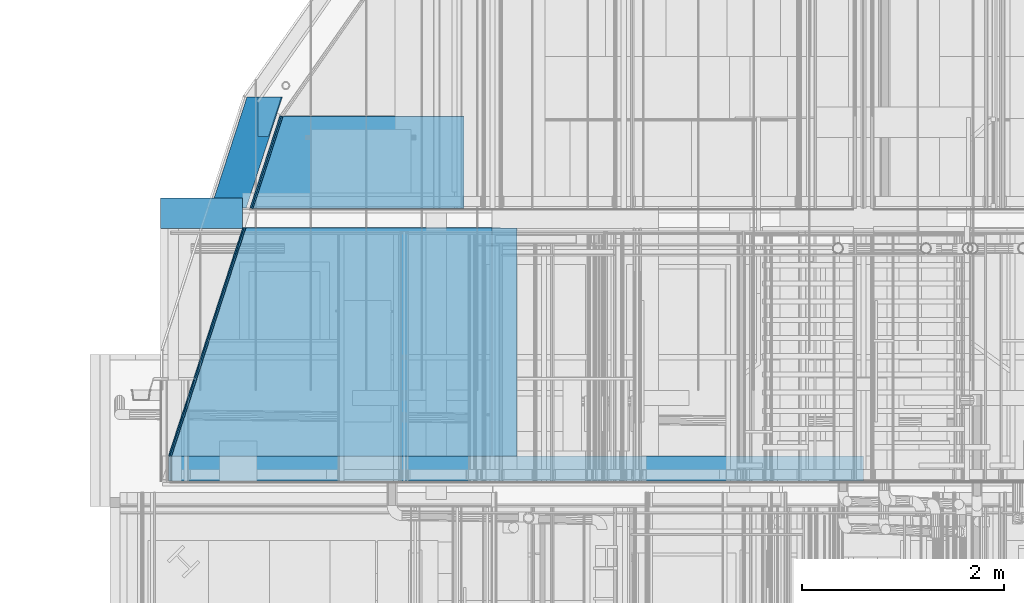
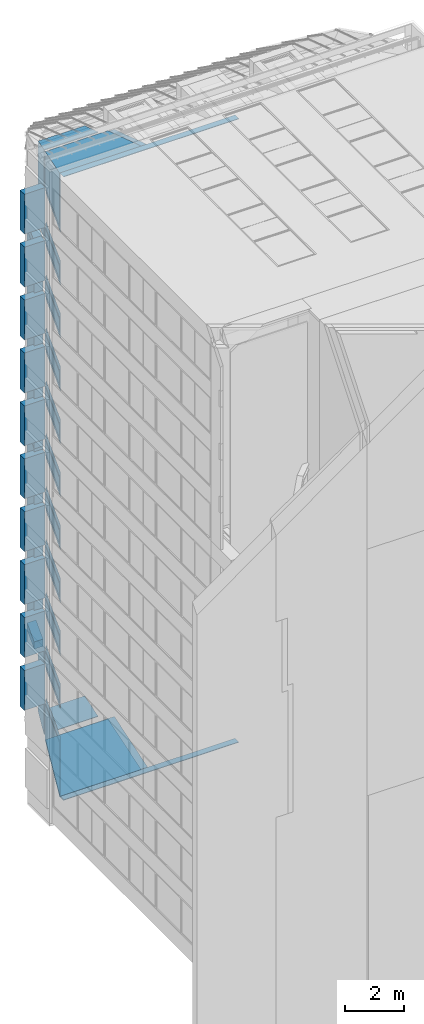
# One storey, part 22 of 583: 51 walls.
"""IFC2X3 building model written with IfcOpenShell, lengths in metres."""

import ifcopenshell
import ifcopenshell.guid

model = None  # the IFC model being written
_history = None  # IfcOwnerHistory: only IFC2X3 demands one
_inside = {}  # id of a spatial element -> (the spatial element, [elements in it])
_under = {}  # id of a project, library or spatial element -> (it, [spatial elements below it])
_declared = {}  # id of a project -> (the project, [libraries it declares])
_typed = {}  # id of a type object -> (the type object, [elements of that type])
_made_of = {}  # id of a material, layer set ... -> (it, [elements and type objects made of it])


def new_model(schema):
    """Start an empty IFC model of exactly this schema.

    Asked for "IFC4X3", IfcOpenShell would pick the latest addendum, in which some entities
    have other attributes; the version numbers below select the first issue.
    IFC2X3 requires an IfcOwnerHistory on every rooted entity: one is made here for all.
    """
    global model, _history
    if schema == "IFC4X3":
        model = ifcopenshell.file(schema_version=(4, 3, 0, 0))
    else:
        model = ifcopenshell.file(schema=schema)
    _inside.clear()
    _under.clear()
    _declared.clear()
    _typed.clear()
    _made_of.clear()
    _history = None
    if model.schema == "IFC2X3":
        org = make("IfcOrganization", Name="unknown")
        user = make(
            "IfcPersonAndOrganization",
            ThePerson=make("IfcPerson", FamilyName="unknown"),
            TheOrganization=org,
        )
        app = make(
            "IfcApplication",
            ApplicationDeveloper=org,
            Version="unknown",
            ApplicationFullName="unknown",
            ApplicationIdentifier="unknown",
        )
        _history = make(
            "IfcOwnerHistory",
            OwningUser=user,
            OwningApplication=app,
            ChangeAction="ADDED",
            CreationDate=0,
        )
    return model


def make(cls, **values):
    """One entity of the class cls with the attributes given. An attribute that is None is left unset."""
    return model.create_entity(
        cls, **{name: value for name, value in values.items() if value is not None}
    )


def entity(cls, *values):
    """Any entity or typed value of the class cls, its attributes in the order of the schema. None: left unset."""
    e = model.create_entity(cls)
    for i, value in enumerate(values):
        if value is not None:
            e[i] = value
    return e


def rooted(cls, **values):
    """An entity with a GlobalId (a new one), such as an element, a storey or a relation."""
    return make(cls, GlobalId=ifcopenshell.guid.new(), OwnerHistory=_history, **values)


def si_unit(unit_type, name, prefix=None):
    """IfcSIUnit, for example si_unit("LENGTHUNIT", "METRE", prefix="MILLI")."""
    return make("IfcSIUnit", UnitType=unit_type, Prefix=prefix, Name=name)


def converted_unit(unit_type, name, factor, base, dimensions=None, offset=None):
    """IfcConversionBasedUnit, such as the inch: factor (a typed value) times the base unit."""
    return make(
        "IfcConversionBasedUnit"
        if offset is None
        else "IfcConversionBasedUnitWithOffset",
        ConversionOffset=offset,
        Dimensions=None
        if dimensions is None
        else entity("IfcDimensionalExponents", *dimensions),
        UnitType=unit_type,
        Name=name,
        ConversionFactor=make(
            "IfcMeasureWithUnit", ValueComponent=factor, UnitComponent=base
        ),
    )


def derived_unit(unit_type, elements):
    """IfcDerivedUnit: a product of units, each with its exponent."""
    return make(
        "IfcDerivedUnit",
        Elements=[
            make("IfcDerivedUnitElement", Unit=unit, Exponent=power)
            for unit, power in elements
        ],
        UnitType=unit_type,
    )


def money_unit(currency):
    """IfcMonetaryUnit."""
    return make("IfcMonetaryUnit", Currency=currency)


def assignment(units):
    """IfcUnitAssignment: the units of a project."""
    return None if units is None else make("IfcUnitAssignment", Units=units)


def point(xyz):
    """IfcCartesianPoint."""
    return None if xyz is None else make("IfcCartesianPoint", Coordinates=xyz)


def direction(xyz):
    """IfcDirection."""
    return None if xyz is None else make("IfcDirection", DirectionRatios=xyz)


def frame(location, z_axis=None, x_axis=None):
    """IfcAxis2Placement3D, a coordinate frame: its origin and axes. An axis left out is left unset."""
    return make(
        "IfcAxis2Placement3D",
        Location=point(location),
        Axis=direction(z_axis),
        RefDirection=direction(x_axis),
    )


def frame_2d(location, x_axis=None):
    """IfcAxis2Placement2D, a coordinate frame in the plane: its origin and x axis."""
    return make(
        "IfcAxis2Placement2D", Location=point(location), RefDirection=direction(x_axis)
    )


def origin_with_axes():
    """The frame at (0, 0, 0) with the z axis (0, 0, 1) and the x axis (1, 0, 0) written out."""
    return frame((0.0, 0.0, 0.0), z_axis=(0.0, 0.0, 1.0), x_axis=(1.0, 0.0, 0.0))


def place(relative_to, where):
    """IfcLocalPlacement: puts the frame where relative to a parent placement (None: the world)."""
    return make(
        "IfcLocalPlacement", PlacementRelTo=relative_to, RelativePlacement=where
    )


def context(
    kind, dimensions, precision=None, world=None, true_north=None, identifier=None
):
    """IfcGeometricRepresentationContext, for example the 3D "Model" context."""
    return make(
        "IfcGeometricRepresentationContext",
        ContextIdentifier=identifier,
        ContextType=kind,
        CoordinateSpaceDimension=dimensions,
        Precision=precision,
        WorldCoordinateSystem=world,
        TrueNorth=true_north,
    )


def subcontext(parent, identifier, kind, view, scale=None):
    """IfcGeometricRepresentationSubContext, for example "Body" below "Model"."""
    return make(
        "IfcGeometricRepresentationSubContext",
        ContextIdentifier=identifier,
        ContextType=kind,
        ParentContext=parent,
        TargetScale=scale,
        TargetView=view,
    )


def project(units=None, contexts=None):
    """IfcProject with its units and contexts."""
    return rooted(
        "IfcProject",
        Name="project",
        RepresentationContexts=contexts,
        UnitsInContext=assignment(units),
    )


def spatial(cls, under=None, at=None, **own):
    """A site, building, storey or space (cls), placed at a placement, below another one or the project."""
    s = rooted(cls, ObjectPlacement=at, **own)
    if under is not None:
        _under.setdefault(under.id(), (under, []))[1].append(s)
    return s


def polyline(points):
    """IfcPolyline through the points."""
    return make("IfcPolyline", Points=[point(p) for p in points])


def profile(cls, at=None, kind="AREA", **sizes):
    """A parametric profile (cls). Its sizes go by their IFC names, for example OverallWidth=200.0."""
    return make(cls, ProfileType=kind, Position=at, **sizes)


def rectangle(**sizes):
    """IfcRectangleProfileDef."""
    return profile("IfcRectangleProfileDef", **sizes)


def outline(outer, holes=None, kind="AREA"):
    """IfcArbitraryClosedProfileDef: a profile drawn as a closed curve; with holes, ...WithVoids."""
    if holes is None:
        return make("IfcArbitraryClosedProfileDef", ProfileType=kind, OuterCurve=outer)
    return make(
        "IfcArbitraryProfileDefWithVoids",
        ProfileType=kind,
        OuterCurve=outer,
        InnerCurves=holes,
    )


def extrude(swept, where, along, depth):
    """IfcExtrudedAreaSolid: the profile swept, set in the frame where, extruded along a direction by depth."""
    return make(
        "IfcExtrudedAreaSolid",
        SweptArea=swept,
        Position=where,
        ExtrudedDirection=direction(along),
        Depth=depth,
    )


def clip(a, b, op="DIFFERENCE"):
    """IfcBooleanClippingResult: the solid a cut by the half space b."""
    return make(
        "IfcBooleanClippingResult", Operator=op, FirstOperand=a, SecondOperand=b
    )


def halfspace(plane, agree):
    """IfcHalfSpaceSolid: all space on one side of the plane z = 0 of the frame plane."""
    return make(
        "IfcHalfSpaceSolid",
        BaseSurface=make("IfcPlane", Position=plane),
        AgreementFlag=agree,
    )


def shape(context_of_items, identifier, shape_type, items):
    """IfcShapeRepresentation: the items that make up one representation, for example the "Body"."""
    return make(
        "IfcShapeRepresentation",
        ContextOfItems=context_of_items,
        RepresentationIdentifier=identifier,
        RepresentationType=shape_type,
        Items=items,
    )


def material(Name=None, Category=None):
    """IfcMaterial."""
    return make("IfcMaterial", Name=Name, Category=Category)


def layer(
    of_material, thickness, ventilated=None, Name=None, Category=None, Priority=None
):
    """IfcMaterialLayer: one layer of a wall or slab, of a material (None: an air gap)."""
    return make(
        "IfcMaterialLayer",
        Material=of_material,
        LayerThickness=thickness,
        IsVentilated=ventilated,
        Name=Name,
        Category=Category,
        Priority=Priority,
    )


def layer_set(layers, Name=None):
    """IfcMaterialLayerSet."""
    return make("IfcMaterialLayerSet", MaterialLayers=layers, LayerSetName=Name)


def layer_usage(for_layer_set, set_direction, sense, offset, extent=None):
    """IfcMaterialLayerSetUsage: how a layer set lies in its element."""
    return make(
        "IfcMaterialLayerSetUsage",
        ForLayerSet=for_layer_set,
        LayerSetDirection=set_direction,
        DirectionSense=sense,
        OffsetFromReferenceLine=offset,
        ReferenceExtent=extent,
    )


def made_of(thing, what):
    """Note that an element or type object is made of a material, layer set ...; save() writes the relation."""
    if what is not None:
        _made_of.setdefault(what.id(), (what, []))[1].append(thing)
    return thing


def type_object(cls, material=None, **own):
    """A type object (cls), such as IfcWallType, which elements share."""
    return made_of(rooted(cls, **own), material)


def element(
    cls,
    number,
    at=None,
    inside=None,
    cuts=None,
    type_object=None,
    material=None,
    context=None,
    identifier="Body",
    shape_type=None,
    held_by="IfcProductDefinitionShape",
    body=None,
    shapes=None,
    **own,
):
    """One element of the class cls, such as IfcWall. Its Tag is "e" and its number.

    at: its placement. inside: the storey or other place that contains it. cuts: it is an
    opening in that element (IfcRelVoidsElement). A single representation is given by context,
    identifier, shape_type and body (its items); several are given by shapes. held_by: the class
    of the entity that holds the representations. save() writes the other relations.
    """
    e = rooted(cls, Tag="e%d" % number, ObjectPlacement=at, **own)
    if body is not None:
        shapes = [shape(context, identifier, shape_type, body)]
    if shapes is not None:
        e.Representation = make(held_by, Representations=shapes)
    if inside is not None:
        _inside.setdefault(inside.id(), (inside, []))[1].append(e)
    if cuts is not None:
        rooted(
            "IfcRelVoidsElement", RelatingBuildingElement=cuts, RelatedOpeningElement=e
        )
    if type_object is not None:
        _typed.setdefault(type_object.id(), (type_object, []))[1].append(e)
    return made_of(e, material)


def aggregate(whole, parts):
    """IfcRelAggregates: a whole, such as a stair, and the parts it consists of."""
    return rooted("IfcRelAggregates", RelatingObject=whole, RelatedObjects=parts)


def save(model, path):
    """Write the relations noted so far, then the file.

    IfcRelAggregates (storeys below a building ...), IfcRelContainedInSpatialStructure (elements
    in a storey), IfcRelDefinesByType, IfcRelAssociatesMaterial and IfcRelDeclares: one each for
    every whole, place, type object, material and project.
    """
    for whole, parts in _under.values():
        aggregate(whole, parts)
    for where, things in _inside.values():
        rooted(
            "IfcRelContainedInSpatialStructure",
            RelatedElements=things,
            RelatingStructure=where,
        )
    for kind, things in _typed.values():
        rooted("IfcRelDefinesByType", RelatedObjects=things, RelatingType=kind)
    for what, things in _made_of.values():
        rooted("IfcRelAssociatesMaterial", RelatedObjects=things, RelatingMaterial=what)
    for by, libraries in _declared.values():
        rooted("IfcRelDeclares", RelatingContext=by, RelatedDefinitions=libraries)
    model.write(path)


model = new_model("IFC2X3")

# Units and contexts
model_context = context("Model", 3, precision=1e-05, world=origin_with_axes(), true_north=direction((0.0, 1.0)))
body_context = subcontext(model_context, "Body", "Model", "MODEL_VIEW", scale=1.0)
ifc_project = project(units=[si_unit("LENGTHUNIT", "METRE"), si_unit("AREAUNIT", "SQUARE_METRE"), si_unit("VOLUMEUNIT", "CUBIC_METRE"), si_unit("ABSORBEDDOSEUNIT", "GRAY"), si_unit("AMOUNTOFSUBSTANCEUNIT", "MOLE"), si_unit("DOSEEQUIVALENTUNIT", "SIEVERT"), si_unit("ELECTRICCAPACITANCEUNIT", "FARAD"), si_unit("ELECTRICCHARGEUNIT", "COULOMB"), si_unit("ELECTRICCONDUCTANCEUNIT", "SIEMENS"), si_unit("ELECTRICCURRENTUNIT", "AMPERE"), si_unit("ELECTRICRESISTANCEUNIT", "OHM"), si_unit("ELECTRICVOLTAGEUNIT", "VOLT"), si_unit("ENERGYUNIT", "JOULE"), si_unit("FORCEUNIT", "NEWTON"), si_unit("FREQUENCYUNIT", "HERTZ"), si_unit("ILLUMINANCEUNIT", "LUX"), si_unit("INDUCTANCEUNIT", "HENRY"), si_unit("LUMINOUSFLUXUNIT", "LUMEN"), si_unit("LUMINOUSINTENSITYUNIT", "CANDELA"), si_unit("MAGNETICFLUXDENSITYUNIT", "TESLA"), si_unit("MAGNETICFLUXUNIT", "WEBER"), si_unit("MASSUNIT", "GRAM"), converted_unit("PLANEANGLEUNIT", "degree", entity("IfcReal", 0.0174532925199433), si_unit("PLANEANGLEUNIT", "RADIAN"), dimensions=[0, 0, 0, 0, 0, 0, 0]), si_unit("POWERUNIT", "WATT"), si_unit("PRESSUREUNIT", "PASCAL"), si_unit("RADIOACTIVITYUNIT", "BECQUEREL"), si_unit("SOLIDANGLEUNIT", "STERADIAN"), si_unit("THERMODYNAMICTEMPERATUREUNIT", "KELVIN"), si_unit("TIMEUNIT", "SECOND"), derived_unit("ACCELERATIONUNIT", [(si_unit("LENGTHUNIT", "METRE"), 1), (si_unit("TIMEUNIT", "SECOND"), -2)]), derived_unit("ANGULARVELOCITYUNIT", [(converted_unit("PLANEANGLEUNIT", "degree", entity("IfcReal", 0.0174532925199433), si_unit("PLANEANGLEUNIT", "RADIAN"), dimensions=[0, 0, 0, 0, 0, 0, 0]), 1), (si_unit("TIMEUNIT", "SECOND"), -1)]), derived_unit("CURVATUREUNIT", [(converted_unit("PLANEANGLEUNIT", "degree", entity("IfcReal", 0.0174532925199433), si_unit("PLANEANGLEUNIT", "RADIAN"), dimensions=[0, 0, 0, 0, 0, 0, 0]), 1), (si_unit("LENGTHUNIT", "METRE"), -1)]), derived_unit("DYNAMICVISCOSITYUNIT", [(si_unit("PRESSUREUNIT", "PASCAL"), 1), (si_unit("TIMEUNIT", "SECOND"), 1)]), derived_unit("HEATFLUXDENSITYUNIT", [(si_unit("POWERUNIT", "WATT"), 1), (si_unit("LENGTHUNIT", "METRE"), -2)]), derived_unit("HEATINGVALUEUNIT", [(si_unit("ENERGYUNIT", "JOULE"), 1), (si_unit("MASSUNIT", "GRAM"), -1)]), derived_unit("INTEGERCOUNTRATEUNIT", [(si_unit("TIMEUNIT", "SECOND"), -1)]), derived_unit("IONCONCENTRATIONUNIT", [(si_unit("MASSUNIT", "GRAM"), 1), (si_unit("VOLUMEUNIT", "CUBIC_METRE"), -1)]), derived_unit("ISOTHERMALMOISTURECAPACITYUNIT", [(si_unit("VOLUMEUNIT", "CUBIC_METRE"), 1), (si_unit("MASSUNIT", "GRAM"), -1)]), derived_unit("KINEMATICVISCOSITYUNIT", [(si_unit("AREAUNIT", "SQUARE_METRE"), 1), (si_unit("TIMEUNIT", "SECOND"), -1)]), derived_unit("LINEARFORCEUNIT", [(si_unit("FORCEUNIT", "NEWTON"), 1), (si_unit("LENGTHUNIT", "METRE"), -1)]), derived_unit("LINEARMOMENTUNIT", [(si_unit("FORCEUNIT", "NEWTON"), 1), (si_unit("LENGTHUNIT", "METRE"), -1)]), derived_unit("LINEARSTIFFNESSUNIT", [(si_unit("FORCEUNIT", "NEWTON"), 1), (si_unit("LENGTHUNIT", "METRE"), -1)]), derived_unit("LINEARVELOCITYUNIT", [(si_unit("LENGTHUNIT", "METRE"), 1), (si_unit("TIMEUNIT", "SECOND"), -1)]), derived_unit("LUMINOUSINTENSITYDISTRIBUTIONUNIT", [(si_unit("LUMINOUSINTENSITYUNIT", "CANDELA"), 1), (si_unit("LUMINOUSFLUXUNIT", "LUMEN"), -1)]), derived_unit("MASSDENSITYUNIT", [(si_unit("MASSUNIT", "GRAM"), 1), (si_unit("VOLUMEUNIT", "CUBIC_METRE"), -1)]), derived_unit("MASSFLOWRATEUNIT", [(si_unit("MASSUNIT", "GRAM"), 1), (si_unit("TIMEUNIT", "SECOND"), -1)]), derived_unit("MASSPERLENGTHUNIT", [(si_unit("MASSUNIT", "GRAM"), 1), (si_unit("LENGTHUNIT", "METRE"), -1)]), derived_unit("MODULUSOFELASTICITYUNIT", [(si_unit("FORCEUNIT", "NEWTON"), 1), (si_unit("AREAUNIT", "SQUARE_METRE"), -1)]), derived_unit("MODULUSOFLINEARSUBGRADEREACTIONUNIT", [(si_unit("FORCEUNIT", "NEWTON"), 1), (si_unit("LENGTHUNIT", "METRE"), -2)]), derived_unit("MODULUSOFROTATIONALSUBGRADEREACTIONUNIT", [(si_unit("FORCEUNIT", "NEWTON"), 1), (si_unit("LENGTHUNIT", "METRE"), 1)]), derived_unit("MODULUSOFSUBGRADEREACTIONUNIT", [(si_unit("FORCEUNIT", "NEWTON"), 1), (si_unit("VOLUMEUNIT", "CUBIC_METRE"), -1)]), derived_unit("MOISTUREDIFFUSIVITYUNIT", [(si_unit("VOLUMEUNIT", "CUBIC_METRE"), 1), (si_unit("TIMEUNIT", "SECOND"), -1)]), derived_unit("MOLECULARWEIGHTUNIT", [(si_unit("MASSUNIT", "GRAM"), 1), (si_unit("AMOUNTOFSUBSTANCEUNIT", "MOLE"), -1)]), derived_unit("PLANARFORCEUNIT", [(si_unit("FORCEUNIT", "NEWTON"), 1), (si_unit("LENGTHUNIT", "METRE"), -2)]), derived_unit("ROTATIONALFREQUENCYUNIT", [(si_unit("TIMEUNIT", "SECOND"), -1)]), derived_unit("ROTATIONALMASSUNIT", [(si_unit("MASSUNIT", "GRAM"), 1), (si_unit("LENGTHUNIT", "METRE"), 2)]), derived_unit("ROTATIONALSTIFFNESSUNIT", [(si_unit("FORCEUNIT", "NEWTON"), 1), (si_unit("LENGTHUNIT", "METRE"), 1), (converted_unit("PLANEANGLEUNIT", "degree", entity("IfcReal", 0.0174532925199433), si_unit("PLANEANGLEUNIT", "RADIAN"), dimensions=[0, 0, 0, 0, 0, 0, 0]), -1)]), derived_unit("SECTIONAREAINTEGRALUNIT", [(si_unit("LENGTHUNIT", "METRE"), 5)]), derived_unit("SECTIONMODULUSUNIT", [(si_unit("LENGTHUNIT", "METRE"), 3)]), derived_unit("SHEARMODULUSUNIT", [(si_unit("FORCEUNIT", "NEWTON"), 1), (si_unit("AREAUNIT", "SQUARE_METRE"), -1)]), derived_unit("SOUNDPOWERUNIT", [(si_unit("ENERGYUNIT", "JOULE"), 1), (si_unit("TIMEUNIT", "SECOND"), -1)]), derived_unit("SPECIFICHEATCAPACITYUNIT", [(si_unit("FORCEUNIT", "NEWTON"), 1), (si_unit("MASSUNIT", "GRAM"), -1), (si_unit("THERMODYNAMICTEMPERATUREUNIT", "KELVIN"), -1)]), derived_unit("TEMPERATUREGRADIENTUNIT", [(si_unit("THERMODYNAMICTEMPERATUREUNIT", "KELVIN"), 1), (si_unit("LENGTHUNIT", "METRE"), -1)]), derived_unit("THERMALADMITTANCEUNIT", [(si_unit("POWERUNIT", "WATT"), 1), (si_unit("AREAUNIT", "SQUARE_METRE"), -1), (si_unit("THERMODYNAMICTEMPERATUREUNIT", "KELVIN"), -1)]), derived_unit("THERMALCONDUCTANCEUNIT", [(si_unit("POWERUNIT", "WATT"), 1), (si_unit("LENGTHUNIT", "METRE"), -1), (si_unit("THERMODYNAMICTEMPERATUREUNIT", "KELVIN"), -1)]), derived_unit("THERMALEXPANSIONCOEFFICIENTUNIT", [(si_unit("THERMODYNAMICTEMPERATUREUNIT", "KELVIN"), -1)]), derived_unit("THERMALRESISTANCEUNIT", [(si_unit("AREAUNIT", "SQUARE_METRE"), 1), (si_unit("POWERUNIT", "WATT"), -1)]), derived_unit("THERMALTRANSMITTANCEUNIT", [(si_unit("POWERUNIT", "WATT"), 1), (si_unit("AREAUNIT", "SQUARE_METRE"), -1), (si_unit("THERMODYNAMICTEMPERATUREUNIT", "KELVIN"), -1)]), derived_unit("TORQUEUNIT", [(si_unit("FORCEUNIT", "NEWTON"), 1), (si_unit("LENGTHUNIT", "METRE"), 1)]), derived_unit("VAPORPERMEABILITYUNIT", [(si_unit("MASSUNIT", "GRAM"), 1), (si_unit("TIMEUNIT", "SECOND"), -1)]), derived_unit("VOLUMETRICFLOWRATEUNIT", [(si_unit("VOLUMEUNIT", "CUBIC_METRE"), 1), (si_unit("TIMEUNIT", "SECOND"), -1)]), derived_unit("WARPINGCONSTANTUNIT", [(si_unit("LENGTHUNIT", "METRE"), 6)]), derived_unit("WARPINGMOMENTUNIT", [(si_unit("FORCEUNIT", "NEWTON"), 1), (si_unit("LENGTHUNIT", "METRE"), 2)]), money_unit("GBP")], contexts=[model_context])

# Site, building, storey
site_placement = place(None, origin_with_axes())
site = spatial("IfcSite", under=ifc_project, at=site_placement, Name="Site", CompositionType="ELEMENT")
building_placement = place(site_placement, origin_with_axes())
building = spatial("IfcBuilding", under=site, at=building_placement, Name="Building01", CompositionType="ELEMENT")
storey_placement = place(building_placement, frame((0.0, 0.0, 20.78), z_axis=(0.0, 0.0, 1.0), x_axis=(1.0, 0.0, 0.0)))
storey = spatial("IfcBuildingStorey", under=building, at=storey_placement, Name="RL", CompositionType="ELEMENT", Elevation=20.78)

# Walls
ifc_material_1 = material(Name="A_BSUK_WallsInternal")
wall_type_1 = type_object("IfcWallType", Name="A-Walls-Internal", PredefinedType="NOTDEFINED")
wall_1_placement = place(storey_placement, frame((3.774964, 15.23, -20.2012), z_axis=(0.0, 0.95105652, 0.30901699), x_axis=(-1.0, 0.0, 0.0)))
element("IfcWall", 1, at=wall_1_placement, inside=storey, type_object=wall_type_1, material=ifc_material_1, Name="7C", ObjectType="A-Walls-Internal", context=body_context, shape_type="Clipping", body=[
    clip(extrude(outline(polyline([(3.181898, 0.015), (0.0, 0.015), (0.0, 0.0), (3.196164, 0.0), (3.181898, 0.015)])), origin_with_axes(), (0.0, 0.0, 1.0), 2.373987), halfspace(frame((1.598082, 1.519866, 0.493834), z_axis=(-0.70710678, -0.67249851, -0.21850801), x_axis=(0.68915176, -0.72461704, 0.0)), True)),
])
wall_2_placement = place(storey_placement, frame((0.5788, 15.23, -20.2012), z_axis=(0.30901699, 0.95105652, 0.0), x_axis=(0.0, 0.0, 1.0)))
element("IfcWall", 2, at=wall_2_placement, inside=storey, type_object=wall_type_1, material=ifc_material_1, Name="7C", ObjectType="A-Walls-Internal", context=body_context, shape_type="Clipping", body=[
    clip(extrude(outline(polyline([(2.241224, 0.015), (0.014266, 0.015), (0.0, 0.0), (2.241224, 0.0), (2.241224, 0.015)])), origin_with_axes(), (0.0, 0.0, 1.0), 2.373987), halfspace(frame((0.0, 0.0, 0.0), z_axis=(0.70710678, -0.67249851, -0.21850801), x_axis=(0.68915176, 0.72461704, 0.0)), True)),
])
wall_3_placement = place(storey_placement, frame((0.5788, 15.23, -16.310024), z_axis=(0.30901699, 0.95105652, 0.0), x_axis=(0.0, 0.0, 1.0)))
element("IfcWall", 3, at=wall_3_placement, inside=storey, type_object=wall_type_1, material=ifc_material_1, Name="7C", ObjectType="A-Walls-Internal", context=body_context, shape_type="SweptSolid", body=[
    extrude(rectangle(XDim=0.540049, YDim=0.015, at=frame_2d((0.270024, 0.0075), x_axis=(-1.0, 0.0))), origin_with_axes(), (0.0, 0.0, 1.0), 2.373987),
])
for number, where, z_axis, x_axis, name in (
    (4, (0.5788, 15.23, -14.119976), (0.30901699, 0.95105652, 0.0), (0.0, 0.0, 1.0), "7C"),
    (5, (0.5788, 15.23, -11.929976), (0.30901699, 0.95105652, 0.0), (0.0, 0.0, 1.0), "7C"),
    (6, (0.5788, 15.23, -9.739976), (0.30901699, 0.95105652, 0.0), (0.0, 0.0, 1.0), "7C"),
):
    element("IfcWall", number, at=place(storey_placement, frame(where, z_axis=z_axis, x_axis=x_axis)), inside=storey, type_object=wall_type_1, material=ifc_material_1, Name=name, ObjectType="A-Walls-Internal", context=body_context, shape_type="SweptSolid", body=[
        extrude(rectangle(XDim=0.540001, YDim=0.015, at=frame_2d((0.27, 0.0075), x_axis=(-1.0, 0.0))), origin_with_axes(), (0.0, 0.0, 1.0), 2.373987),
    ])
for number, where, z_axis, x_axis, name in (
    (7, (0.5788, 15.23, -7.550024), (0.30901699, 0.95105652, 0.0), (0.0, 0.0, 1.0), "7C"),
    (8, (0.5788, 15.23, -5.360024), (0.30901699, 0.95105652, 0.0), (0.0, 0.0, 1.0), "7C"),
    (9, (0.5788, 15.23, -3.170024), (0.30901699, 0.95105652, 0.0), (0.0, 0.0, 1.0), "7C"),
    (10, (0.5788, 15.23, -0.980024), (0.30901699, 0.95105652, 0.0), (0.0, 0.0, 1.0), "7C"),
    (11, (0.5788, 15.23, 1.209976), (0.30901699, 0.95105652, 0.0), (0.0, 0.0, 1.0), "7C"),
):
    element("IfcWall", number, at=place(storey_placement, frame(where, z_axis=z_axis, x_axis=x_axis)), inside=storey, type_object=wall_type_1, material=ifc_material_1, Name=name, ObjectType="A-Walls-Internal", context=body_context, shape_type="SweptSolid", body=[
        extrude(rectangle(XDim=0.540049, YDim=0.015, at=frame_2d((0.270024, 0.0075), x_axis=(-1.0, 0.0))), origin_with_axes(), (0.0, 0.0, 1.0), 2.373987),
    ])
wall_4_placement = place(storey_placement, frame((7.45, 14.98, 5.6212), z_axis=(0.0, 1.0, 0.0), x_axis=(-1.0, 0.0, 0.0)))
element("IfcWall", 12, at=wall_4_placement, inside=storey, type_object=wall_type_1, material=ifc_material_1, Name="7C", ObjectType="A-Walls-Internal", context=body_context, shape_type="SweptSolid", body=[
    extrude(outline(polyline([(6.8712, 0.0), (0.0, 0.0), (0.0, -0.025), (6.8462, -0.025), (6.8712, 0.0)])), origin_with_axes(), (0.0, 0.0, 1.0), 0.25),
])
wall_5_placement = place(storey_placement, frame((3.774915, 15.23, 5.6212), z_axis=(0.0, 0.95105652, -0.30901699), x_axis=(-1.0, 0.0, 0.0)))
element("IfcWall", 13, at=wall_5_placement, inside=storey, type_object=wall_type_1, material=ifc_material_1, Name="7C", ObjectType="A-Walls-Internal", context=body_context, shape_type="Clipping", body=[
    clip(extrude(outline(polyline([(3.196115, 0.0), (0.0, 0.0), (0.0, -0.015), (3.181849, -0.015), (3.196115, 0.0)])), origin_with_axes(), (0.0, 0.0, 1.0), 2.373987), halfspace(frame((1.598058, -1.519843, 0.493827), z_axis=(-0.70710678, 0.67249851, -0.21850801), x_axis=(-0.68915176, -0.72461704, 0.0)), True)),
])
wall_6_placement = place(storey_placement, frame((0.5788, 15.23, 5.6212), z_axis=(0.30901699, 0.95105652, 0.0), x_axis=(0.0, 0.0, -1.0)))
element("IfcWall", 14, at=wall_6_placement, inside=storey, type_object=wall_type_1, material=ifc_material_1, Name="7C", ObjectType="A-Walls-Internal", context=body_context, shape_type="Clipping", body=[
    clip(extrude(outline(polyline([(2.221224, 0.0), (0.0, 0.0), (0.014266, -0.015), (2.221224, -0.015), (2.221224, 0.0)])), origin_with_axes(), (0.0, 0.0, 1.0), 2.373987), halfspace(frame((0.0, 0.0, 0.0), z_axis=(0.70710678, 0.67249851, -0.21850801), x_axis=(-0.68915176, 0.72461704, 0.0)), True)),
])
wall_7_placement = place(storey_placement, frame((7.45, 14.98, -20.2012), z_axis=(0.0, 1.0, 0.0), x_axis=(-1.0, 0.0, 0.0)))
element("IfcWall", 15, at=wall_7_placement, inside=storey, type_object=wall_type_1, material=ifc_material_1, Name="7C", ObjectType="A-Walls-Internal", context=body_context, shape_type="SweptSolid", body=[
    extrude(outline(polyline([(6.8462, 0.025), (0.0, 0.025), (0.0, 0.0), (6.8712, 0.0), (6.8462, 0.025)])), origin_with_axes(), (0.0, 0.0, 1.0), 0.25),
])
wall_8_placement = place(storey_placement, frame((0.594428, 15.229557, 5.605572), z_axis=(0.30901699, 0.95105652, 0.0), x_axis=(0.0, 0.0, -1.0)))
element("IfcWall", 16, at=wall_8_placement, inside=storey, type_object=wall_type_1, material=ifc_material_1, Name="7C", ObjectType="A-Walls-Internal", context=body_context, shape_type="Clipping", body=[
    clip(extrude(outline(polyline([(2.205596, 0.0), (0.0, 0.0), (0.014266, -0.015), (2.455596, -0.015), (2.205596, 0.0)])), origin_with_axes(), (0.0, 0.0, 1.0), 2.373987), halfspace(frame((0.0, 0.0, 0.0), z_axis=(0.70710678, 0.67249851, -0.21850801), x_axis=(-0.68915176, 0.72461704, 0.0)), True)),
])
wall_9_placement = place(storey_placement, frame((3.774964, 15.229557, 5.605572), z_axis=(0.0, 0.95105652, -0.30901699), x_axis=(-1.0, 0.0, 0.0)))
element("IfcWall", 17, at=wall_9_placement, inside=storey, type_object=wall_type_1, material=ifc_material_1, Name="7C", ObjectType="A-Walls-Internal", context=body_context, shape_type="Clipping", body=[
    clip(extrude(outline(polyline([(3.180536, 0.0), (0.0, 0.0), (-0.25, -0.015), (3.16627, -0.015), (3.180536, 0.0)])), origin_with_axes(), (0.0, 0.0, 1.0), 2.373987), halfspace(frame((1.590268, -1.512435, 0.49142), z_axis=(-0.70710678, 0.67249851, -0.21850801), x_axis=(-0.68915176, -0.72461704, 0.0)), True)),
])
wall_10_placement = place(storey_placement, frame((0.594428, 15.229557, -20.185572), z_axis=(0.30901699, 0.95105652, 0.0), x_axis=(0.0, 0.0, 1.0)))
element("IfcWall", 18, at=wall_10_placement, inside=storey, type_object=wall_type_1, material=ifc_material_1, Name="7C", ObjectType="A-Walls-Internal", context=body_context, shape_type="Clipping", body=[
    clip(extrude(outline(polyline([(2.475596, 0.015), (0.014266, 0.015), (0.0, 0.0), (2.225596, 0.0), (2.475596, 0.015)])), origin_with_axes(), (0.0, 0.0, 1.0), 2.373987), halfspace(frame((0.0, 0.0, 0.0), z_axis=(0.70710678, -0.67249851, -0.21850801), x_axis=(0.68915176, 0.72461704, 0.0)), True)),
])
wall_11_placement = place(storey_placement, frame((3.774964, 15.229557, -20.185572), z_axis=(0.0, 0.95105652, 0.30901699), x_axis=(-1.0, 0.0, 0.0)))
element("IfcWall", 19, at=wall_11_placement, inside=storey, type_object=wall_type_1, material=ifc_material_1, Name="7C", ObjectType="A-Walls-Internal", context=body_context, shape_type="Clipping", body=[
    clip(extrude(outline(polyline([(3.16627, 0.015), (-0.25, 0.015), (0.0, 0.0), (3.180536, 0.0), (3.16627, 0.015)])), origin_with_axes(), (0.0, 0.0, 1.0), 2.373987), halfspace(frame((1.590268, 1.512435, 0.49142), z_axis=(-0.70710678, -0.67249851, -0.21850801), x_axis=(0.68915176, -0.72461704, 0.0)), True)),
])
for number, where, z_axis, x_axis, name in (
    (20, (0.594428, 15.229557, 1.209976), (0.30901699, 0.95105652, 0.0), (0.0, 0.0, 1.0), "7C"),
    (21, (0.594428, 15.229557, -0.980024), (0.30901699, 0.95105652, 0.0), (0.0, 0.0, 1.0), "7C"),
    (22, (0.594428, 15.229557, -3.170024), (0.30901699, 0.95105652, 0.0), (0.0, 0.0, 1.0), "7C"),
    (23, (0.594428, 15.229557, -5.360024), (0.30901699, 0.95105652, 0.0), (0.0, 0.0, 1.0), "7C"),
    (24, (0.594428, 15.229557, -7.550024), (0.30901699, 0.95105652, 0.0), (0.0, 0.0, 1.0), "7C"),
):
    element("IfcWall", number, at=place(storey_placement, frame(where, z_axis=z_axis, x_axis=x_axis)), inside=storey, type_object=wall_type_1, material=ifc_material_1, Name=name, ObjectType="A-Walls-Internal", context=body_context, shape_type="SweptSolid", body=[
        extrude(outline(polyline([(0.790049, 0.015), (-0.25, 0.015), (0.0, 0.0), (0.540049, 0.0), (0.790049, 0.015)])), origin_with_axes(), (0.0, 0.0, 1.0), 2.373987),
    ])
for number, where, z_axis, x_axis, name in (
    (25, (0.594428, 15.229557, -9.739976), (0.30901699, 0.95105652, 0.0), (0.0, 0.0, 1.0), "7C"),
    (26, (0.594428, 15.229557, -11.929976), (0.30901699, 0.95105652, 0.0), (0.0, 0.0, 1.0), "7C"),
    (27, (0.594428, 15.229557, -14.119976), (0.30901699, 0.95105652, 0.0), (0.0, 0.0, 1.0), "7C"),
):
    element("IfcWall", number, at=place(storey_placement, frame(where, z_axis=z_axis, x_axis=x_axis)), inside=storey, type_object=wall_type_1, material=ifc_material_1, Name=name, ObjectType="A-Walls-Internal", context=body_context, shape_type="SweptSolid", body=[
        extrude(outline(polyline([(0.790001, 0.015), (-0.250049, 0.015), (0.0, 0.0), (0.540001, 0.0), (0.790001, 0.015)])), origin_with_axes(), (0.0, 0.0, 1.0), 2.373987),
    ])
wall_12_placement = place(storey_placement, frame((0.594428, 15.229557, -16.310024), z_axis=(0.30901699, 0.95105652, 0.0), x_axis=(0.0, 0.0, 1.0)))
element("IfcWall", 28, at=wall_12_placement, inside=storey, type_object=wall_type_1, material=ifc_material_1, Name="7C", ObjectType="A-Walls-Internal", context=body_context, shape_type="SweptSolid", body=[
    extrude(outline(polyline([(0.790049, 0.015), (-0.25, 0.015), (0.0, 0.0), (0.540049, 0.0), (0.790049, 0.015)])), origin_with_axes(), (0.0, 0.0, 1.0), 2.373987),
])
wall_13_placement = place(storey_placement, frame((1.399531, 17.68, -19.380471), z_axis=(0.0, 0.95105669, 0.30901647), x_axis=(1.0, 0.0, 0.0)))
element("IfcWall", 29, at=wall_13_placement, inside=storey, type_object=wall_type_1, material=ifc_material_1, Name="7C", ObjectType="A-Walls-Internal", context=body_context, shape_type="Clipping", body=[
    clip(extrude(outline(polyline([(-0.014266, 0.015), (0.0, 0.0), (2.100409, 0.0), (2.100409, 0.015), (-0.014266, 0.015)])), origin_with_axes(), (0.0, 0.0, 1.0), 0.955), halfspace(frame((0.0, 0.0, 0.0), z_axis=(0.70710678, 0.67249863, -0.21850764), x_axis=(-0.68915176, 0.72461704, 0.0)), True)),
])
wall_14_placement = place(storey_placement, frame((1.399531, 17.68, -15.719976), z_axis=(0.30901647, 0.95105669, 0.0), x_axis=(0.0, 0.0, -1.0)))
element("IfcWall", 30, at=wall_14_placement, inside=storey, type_object=wall_type_1, material=ifc_material_1, Name="7C", ObjectType="A-Walls-Internal", context=body_context, shape_type="Clipping", body=[
    clip(extrude(outline(polyline([(3.674762, 0.015), (0.0, 0.015), (0.0, 0.0), (3.660496, 0.0), (3.674762, 0.015)])), origin_with_axes(), (0.0, 0.0, 1.0), 0.955), halfspace(frame((1.830248, -1.740669, 0.565577), z_axis=(-0.70710678, 0.67249863, -0.21850764), x_axis=(-0.68915176, -0.72461704, 0.0)), True)),
])
wall_15_placement = place(storey_placement, frame((1.413809, 17.675402, -15.719976), z_axis=(0.30901647, 0.95105669, 0.0), x_axis=(0.0, 0.0, -1.0)))
element("IfcWall", 31, at=wall_15_placement, inside=storey, type_object=wall_type_1, material=ifc_material_1, Name="7C", ObjectType="A-Walls-Internal", context=body_context, shape_type="Clipping", body=[
    clip(extrude(outline(polyline([(3.660484, 0.015), (0.0, 0.015), (0.0, 0.0), (3.646218, 0.0), (3.660484, 0.015)])), origin_with_axes(), (0.0, 0.0, 1.0), 0.954962), halfspace(frame((1.823109, -1.73388, 0.563371), z_axis=(-0.70710678, 0.67249863, -0.21850764), x_axis=(-0.68915176, -0.72461704, 0.0)), True)),
])
wall_16_placement = place(storey_placement, frame((1.413803, 17.675383, -19.3662), z_axis=(0.0, 0.95105669, 0.30901647), x_axis=(1.0, 0.0, 0.0)))
element("IfcWall", 32, at=wall_16_placement, inside=storey, type_object=wall_type_1, material=ifc_material_1, Name="7C", ObjectType="A-Walls-Internal", context=body_context, shape_type="Clipping", body=[
    clip(extrude(outline(polyline([(-0.014266, 0.015), (0.0, 0.0), (2.086137, 0.0), (2.086137, 0.015), (-0.014266, 0.015)])), origin_with_axes(), (0.0, 0.0, 1.0), 0.955012), halfspace(frame((0.0, 0.0, 0.0), z_axis=(0.70710678, 0.67249863, -0.21850764), x_axis=(-0.68915176, 0.72461704, 0.0)), True)),
])
wall_17_placement = place(storey_placement, frame((1.399531, 17.68, 4.800471), z_axis=(0.0, 0.95105669, -0.30901647), x_axis=(-1.0, 0.0, 0.0)))
element("IfcWall", 33, at=wall_17_placement, inside=storey, type_object=wall_type_1, material=ifc_material_1, Name="7C", ObjectType="A-Walls-Internal", context=body_context, shape_type="Clipping", body=[
    clip(extrude(outline(polyline([(0.0, 0.0), (0.014266, 0.015), (-2.100409, 0.015), (-2.100409, 0.0), (0.0, 0.0)])), origin_with_axes(), (0.0, 0.0, 1.0), 0.955), halfspace(frame((0.0, 0.0, 0.0), z_axis=(-0.70710678, 0.67249863, -0.21850764), x_axis=(-0.68915176, -0.72461704, 0.0)), True)),
])
wall_18_placement = place(storey_placement, frame((1.399531, 17.68, 1.139976), z_axis=(0.30901647, 0.95105669, 0.0), x_axis=(0.0, 0.0, -1.0)))
element("IfcWall", 34, at=wall_18_placement, inside=storey, type_object=wall_type_1, material=ifc_material_1, Name="7C", ObjectType="A-Walls-Internal", context=body_context, shape_type="Clipping", body=[
    clip(extrude(outline(polyline([(-3.660496, 0.0), (0.0, 0.0), (0.0, 0.015), (-3.674762, 0.015), (-3.660496, 0.0)])), origin_with_axes(), (0.0, 0.0, 1.0), 0.955), halfspace(frame((-1.830248, -1.740669, 0.565577), z_axis=(0.70710678, 0.67249863, -0.21850764), x_axis=(-0.68915176, 0.72461704, 0.0)), True)),
])
wall_19_placement = place(storey_placement, frame((1.413809, 17.675402, 1.139976), z_axis=(0.30901647, 0.95105669, 0.0), x_axis=(0.0, 0.0, -1.0)))
element("IfcWall", 35, at=wall_19_placement, inside=storey, type_object=wall_type_1, material=ifc_material_1, Name="7C", ObjectType="A-Walls-Internal", context=body_context, shape_type="Clipping", body=[
    clip(extrude(outline(polyline([(-3.646218, 0.0), (0.0, 0.0), (0.0, 0.015), (-3.660484, 0.015), (-3.646218, 0.0)])), origin_with_axes(), (0.0, 0.0, 1.0), 0.954962), halfspace(frame((-1.823109, -1.73388, 0.563371), z_axis=(0.70710678, 0.67249863, -0.21850764), x_axis=(-0.68915176, 0.72461704, 0.0)), True)),
])
wall_20_placement = place(storey_placement, frame((1.413803, 17.675383, 4.7862), z_axis=(0.0, 0.95105669, -0.30901647), x_axis=(-1.0, 0.0, 0.0)))
element("IfcWall", 36, at=wall_20_placement, inside=storey, type_object=wall_type_1, material=ifc_material_1, Name="7C", ObjectType="A-Walls-Internal", context=body_context, shape_type="Clipping", body=[
    clip(extrude(outline(polyline([(0.0, 0.0), (0.014266, 0.015), (-2.086137, 0.015), (-2.086137, 0.0), (0.0, 0.0)])), origin_with_axes(), (0.0, 0.0, 1.0), 0.955012), halfspace(frame((0.0, 0.0, 0.0), z_axis=(-0.70710678, 0.67249863, -0.21850764), x_axis=(-0.68915176, -0.72461704, 0.0)), True)),
])
ifc_material_2 = material(Name="A_BSUK_Roofs")
ifc_layer_1 = layer(ifc_material_2, 0.3, ventilated=False)
ifc_layer_set_1 = layer_set([ifc_layer_1])
ifc_layer_usage_1 = layer_usage(ifc_layer_set_1, "AXIS2", "POSITIVE", 0.0)
wall_type_2 = type_object("IfcWallType", Name="A-Walls-ExternalBlock", PredefinedType="NOTDEFINED")
wall_21_placement = place(storey_placement, frame((1.31, 17.78, 1.750024), z_axis=(0.0, 0.0, 1.0), x_axis=(-1.0, 0.0, 0.0)))
element("IfcWallStandardCase", 37, at=wall_21_placement, inside=storey, type_object=wall_type_2, material=ifc_layer_usage_1, Name="7C", ObjectType="A-Walls-ExternalBlock", context=body_context, shape_type="SweptSolid", body=[
    extrude(rectangle(XDim=0.81, YDim=0.3, at=frame_2d((0.405, 0.15), x_axis=(1.0, 0.0))), origin_with_axes(), (0.0, 0.0, 1.0), 1.649951),
])
ifc_layer_2 = layer(ifc_material_2, 0.300000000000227, ventilated=False)
ifc_layer_set_2 = layer_set([ifc_layer_2])
ifc_layer_usage_2 = layer_usage(ifc_layer_set_2, "AXIS2", "POSITIVE", 0.0)
wall_22_placement = place(storey_placement, frame((1.31, 17.78, -0.439976), z_axis=(0.0, 0.0, 1.0), x_axis=(-1.0, 0.0, 0.0)))
element("IfcWallStandardCase", 38, at=wall_22_placement, inside=storey, type_object=wall_type_2, material=ifc_layer_usage_2, Name="7C", ObjectType="A-Walls-ExternalBlock", context=body_context, shape_type="SweptSolid", body=[
    extrude(rectangle(XDim=0.81, YDim=0.3, at=frame_2d((0.405, 0.15), x_axis=(1.0, 0.0))), origin_with_axes(), (0.0, 0.0, 1.0), 1.649951),
])
wall_23_placement = place(storey_placement, frame((1.31, 17.78, -2.629976), z_axis=(0.0, 0.0, 1.0), x_axis=(-1.0, 0.0, 0.0)))
element("IfcWallStandardCase", 39, at=wall_23_placement, inside=storey, type_object=wall_type_2, material=ifc_layer_usage_1, Name="7C", ObjectType="A-Walls-ExternalBlock", context=body_context, shape_type="SweptSolid", body=[
    extrude(rectangle(XDim=0.81, YDim=0.3, at=frame_2d((0.405, 0.15), x_axis=(1.0, 0.0))), origin_with_axes(), (0.0, 0.0, 1.0), 1.649951),
])
wall_24_placement = place(storey_placement, frame((1.31, 17.78, -4.819976), z_axis=(0.0, 0.0, 1.0), x_axis=(-1.0, 0.0, 0.0)))
element("IfcWallStandardCase", 40, at=wall_24_placement, inside=storey, type_object=wall_type_2, material=ifc_layer_usage_2, Name="7C", ObjectType="A-Walls-ExternalBlock", context=body_context, shape_type="SweptSolid", body=[
    extrude(rectangle(XDim=0.81, YDim=0.3, at=frame_2d((0.405, 0.15), x_axis=(1.0, 0.0))), origin_with_axes(), (0.0, 0.0, 1.0), 1.649951),
])
wall_25_placement = place(storey_placement, frame((1.31, 17.78, -7.009976), z_axis=(0.0, 0.0, 1.0), x_axis=(-1.0, 0.0, 0.0)))
element("IfcWallStandardCase", 41, at=wall_25_placement, inside=storey, type_object=wall_type_2, material=ifc_layer_usage_1, Name="7C", ObjectType="A-Walls-ExternalBlock", context=body_context, shape_type="SweptSolid", body=[
    extrude(rectangle(XDim=0.81, YDim=0.3, at=frame_2d((0.405, 0.15), x_axis=(1.0, 0.0))), origin_with_axes(), (0.0, 0.0, 1.0), 1.649951),
])
for number, where, z_axis, x_axis, name in (
    (42, (1.31, 17.78, -9.199976), (0.0, 0.0, 1.0), (-1.0, 0.0, 0.0), "7C"),
    (43, (1.31, 17.78, -11.389976), (0.0, 0.0, 1.0), (-1.0, 0.0, 0.0), "7C"),
    (44, (1.31, 17.78, -13.579976), (0.0, 0.0, 1.0), (-1.0, 0.0, 0.0), "7C"),
):
    element("IfcWallStandardCase", number, at=place(storey_placement, frame(where, z_axis=z_axis, x_axis=x_axis)), inside=storey, type_object=wall_type_2, material=ifc_layer_usage_1, Name=name, ObjectType="A-Walls-ExternalBlock", context=body_context, shape_type="SweptSolid", body=[
        extrude(rectangle(XDim=0.81, YDim=0.3, at=frame_2d((0.405, 0.15), x_axis=(1.0, 0.0))), origin_with_axes(), (0.0, 0.0, 1.0), 1.65),
    ])
wall_26_placement = place(storey_placement, frame((1.31, 17.78, -15.769976), z_axis=(0.0, 0.0, 1.0), x_axis=(-1.0, 0.0, 0.0)))
element("IfcWallStandardCase", 45, at=wall_26_placement, inside=storey, type_object=wall_type_2, material=ifc_layer_usage_2, Name="7C", ObjectType="A-Walls-ExternalBlock", context=body_context, shape_type="SweptSolid", body=[
    extrude(rectangle(XDim=0.81, YDim=0.3, at=frame_2d((0.405, 0.15), x_axis=(1.0, 0.0))), origin_with_axes(), (0.0, 0.0, 1.0), 1.65),
])
wall_27_placement = place(storey_placement, frame((1.31, 17.78, -17.959976), z_axis=(0.0, 0.0, 1.0), x_axis=(-1.0, 0.0, 0.0)))
element("IfcWallStandardCase", 46, at=wall_27_placement, inside=storey, type_object=wall_type_2, material=ifc_layer_usage_1, Name="7C", ObjectType="A-Walls-ExternalBlock", context=body_context, shape_type="SweptSolid", body=[
    extrude(rectangle(XDim=0.81, YDim=0.3, at=frame_2d((0.405, 0.15), x_axis=(1.0, 0.0))), origin_with_axes(), (0.0, 0.0, 1.0), 1.65),
])
ifc_material_3 = material(Name="A_BSUK_WallsExternal")
wall_type_3 = type_object("IfcWallType", Name="A-Walls:A_BSUK_WallsExternal", PredefinedType="NOTDEFINED")
wall_28_placement = place(storey_placement, frame((1.704593, 18.78, -7.13), z_axis=(0.0, 0.0, 1.0), x_axis=(-1.0, 0.0, 0.0)))
element("IfcWall", 47, at=wall_28_placement, inside=storey, type_object=wall_type_3, material=ifc_material_3, Name="A-Walls--A_BSUK_WallsExternal", ObjectType="A-Walls:A_BSUK_WallsExternal", context=body_context, shape_type="SweptSolid", body=[
    extrude(outline(polyline([(0.0, 0.0), (0.010515, 0.0), (0.137233, 0.39), (0.24, 0.39), (0.24, 0.0), (0.35, 0.0), (0.707412, 1.1), (0.357412, 1.1), (0.0, 0.0)])), origin_with_axes(), (0.0, 0.0, 1.0), 7.989976),
])
for number, where, z_axis, x_axis, name in (
    (48, (1.347182, 17.68, 0.859976), (0.0, 0.0, 1.0), (0.30901699, 0.95105652, 0.0), "A-Walls--A_BSUK_WallsExternal"),
    (49, (1.347182, 17.68, -7.43), (0.0, 0.0, 1.0), (0.30901699, 0.95105652, 0.0), "A-Walls--A_BSUK_WallsExternal"),
    (50, (1.347182, 17.68, -15.719976), (0.0, 0.0, 1.0), (0.30901699, 0.95105652, 0.0), "A-Walls--A_BSUK_WallsExternal"),
):
    element("IfcWall", number, at=place(storey_placement, frame(where, z_axis=z_axis, x_axis=x_axis)), inside=storey, type_object=wall_type_3, material=ifc_material_3, Name=name, ObjectType="A-Walls:A_BSUK_WallsExternal", context=body_context, shape_type="SweptSolid", body=[
        extrude(outline(polyline([(0.0, 0.0), (1.156608, 0.0), (1.048452, 0.33287), (-0.108156, 0.33287), (0.0, 0.0)])), origin_with_axes(), (0.0, 0.0, 1.0), 0.3),
    ])
wall_29_placement = place(storey_placement, frame((1.704593, 18.78, -15.419976), z_axis=(0.0, 0.0, 1.0), x_axis=(-1.0, 0.0, 0.0)))
element("IfcWall", 51, at=wall_29_placement, inside=storey, type_object=wall_type_3, material=ifc_material_3, Name="A-Walls--A_BSUK_WallsExternal", ObjectType="A-Walls:A_BSUK_WallsExternal", context=body_context, shape_type="SweptSolid", body=[
    extrude(outline(polyline([(0.0, 0.0), (0.010515, 0.0), (0.137233, 0.39), (0.24, 0.39), (0.24, 0.0), (0.35, 0.0), (0.707412, 1.1), (0.357412, 1.1), (0.0, 0.0)])), origin_with_axes(), (0.0, 0.0, 1.0), 7.989976),
])

save(model, "model.ifc")
